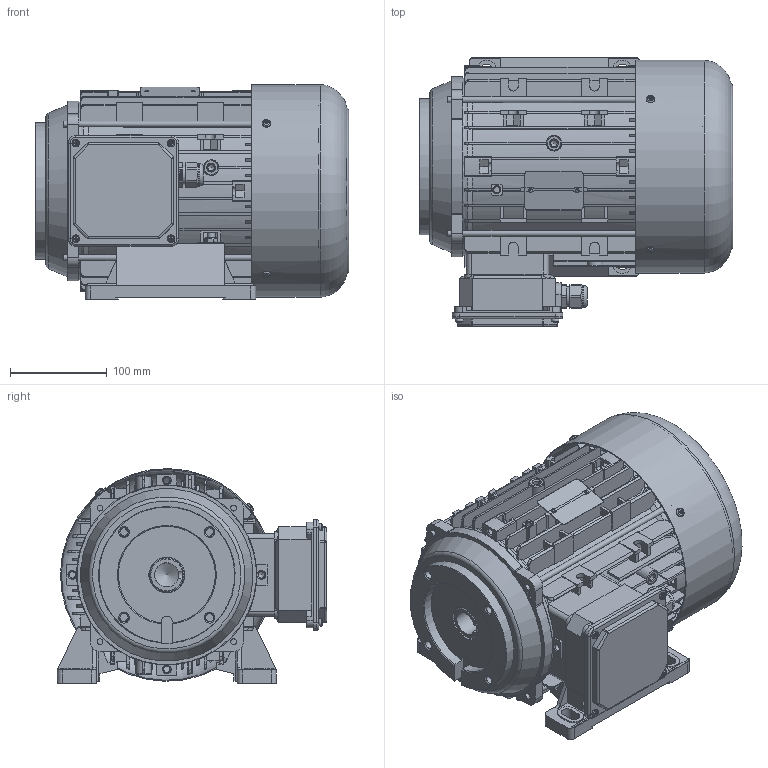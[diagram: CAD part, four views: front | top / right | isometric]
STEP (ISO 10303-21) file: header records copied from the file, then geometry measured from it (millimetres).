
FILE_DESCRIPTION(/* description */ ('Unknown'),/* implementation_level */ '2;1');
FILE_NAME(/* name */ 'W:\Tecnico\Archivio\Dimensioni Pompe\3D Export\Motori\MRE112-1DX.stp',/* time_stamp */ '2021-04-07T12:25:42+02:00',/* author */ ('marcop'),/* organization */ ('Unknown'),/* preprocessor_version */ 'ST-DEVELOPER v17',/* originating_system */ 'Autodesk Inventor 2018',/* authorisation */ ' ');
FILE_SCHEMA (('AUTOMOTIVE_DESIGN { 1 0 10303 214 3 1 1 }'));
Products named in the file (1): 1182 M112 ATT.100-(ME112 1 DX)
Bounding box: 323.5 x 278 x 221.73 mm (x, y, z)
Volume: 2755622.9 mm3; surface area: 1178450 mm2
Topology: 1 solids, 25 shells, 3683 faces, 10657 edges, 7090 vertices
Faces by surface type: plane 2215, cylinder 782, cone 343, torus 264, bspline 63, sphere 16
Full cylindrical faces by diameter (mm): 2.3 x4, 2.5 x2, 3 x2, 3.1 x1, 3.242 x1, 3.3 x7, 4.134 x4, 4.2 x4, 4.6 x4, 4.8 x4, 5 x8, 5.5 x8, 6 x24, 6.5 x1, 6.647 x11, 8 x9, 8.5 x8, 9 x4, 10 x1, 12.8 x4, 14 x1, 15 x2, 17 x1, 18.5 x1, 20 x3, 23 x1, 24.9 x1, 28 x1, 28.2 x1, 29.5 x1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
Entity records: 134239 total; most frequent: CARTESIAN_POINT 32520, ORIENTED_EDGE 21254, DIRECTION 19998, EDGE_CURVE 10627, VERTEX_POINT 7090, AXIS2_PLACEMENT_3D 6846, LINE 6306, VECTOR 6306
